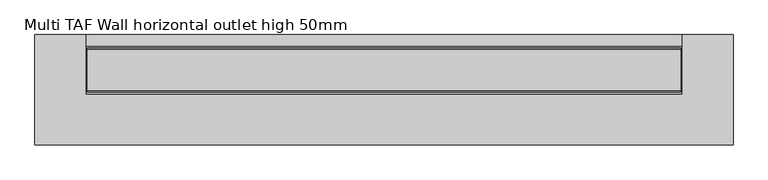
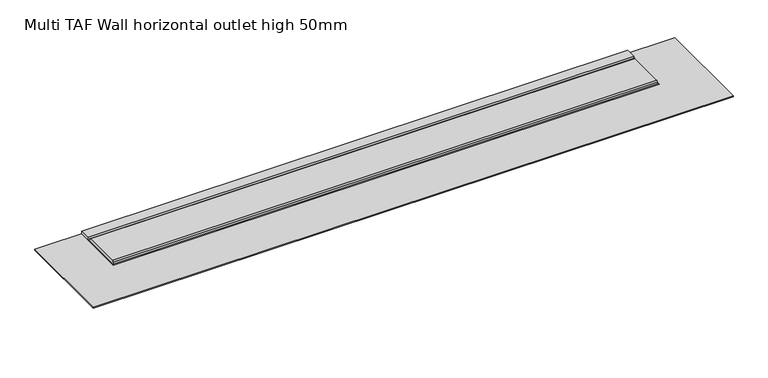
"""IFC4 building model written with IfcOpenShell, lengths in millimetres: sanitary terminal geometry, NLRS_PF_52_UN_Multi TAF Wall uitloop_Easydrain : Multi TAF Wall horizontal outlet high 50mm."""

from ifc_helpers import new_model, si_unit, point, frame, frame_2d, origin, place, context, project, spatial, polyline, circle_curve, trimmed, segment, composite_curve, outline, extrude, faceted_brep, source, transform, mapped, element, save
from ifc_brep_helpers import plane_surface, cylinder_surface, revolved_surface, advanced_brep


def multi_taf_wall_horizontal_outlet_high_50mm_fefc41ae(model_context):
    return source(origin(), model_context, "Body", "SolidModel", [
        advanced_brep(
        [(895.5, 0.0, -67.0), (889.5, 0.0, -67.0), (892.5, 0.0, -67.0), (895.5, 0.0, -78.5), (889.5, 0.0, -78.5), (907.5, 0.0, -86.0), (877.5, 0.0, -86.0), (892.5, 0.0, -86.0)],
        [
            (0, 1, circle_curve(frame((892.5, 0.0, -67.0), z_axis=(0.0, 0.0, 1.0), x_axis=(-1.0, 0.0, 0.0)), 3.0)),
            (1, 2),
            (2, 0),
            (1, 0, circle_curve(frame((892.5, 0.0, -67.0), z_axis=(0.0, 0.0, 1.0), x_axis=(-1.0, 0.0, 0.0)), 3.0)),
            (3, 4, circle_curve(frame((892.5, 0.0, -78.5), z_axis=(0.0, 0.0, 1.0), x_axis=(-1.0, 0.0, 0.0)), 3.0)),
            (4, 1),
            (0, 3),
            (4, 3, circle_curve(frame((892.5, 0.0, -78.5), z_axis=(0.0, 0.0, 1.0), x_axis=(-1.0, 0.0, 0.0)), 3.0)),
            (5, 6, circle_curve(frame((892.5, 0.0, -86.0), z_axis=(0.0, 0.0, 1.0), x_axis=(-1.0, 0.0, 0.0)), 15.0)),
            (6, 4),
            (3, 5),
            (6, 5, circle_curve(frame((892.5, 0.0, -86.0), z_axis=(0.0, 0.0, 1.0), x_axis=(-1.0, 0.0, 0.0)), 15.0)),
            (7, 6),
            (5, 7),
        ],
        [
            plane_surface(frame((892.5, 0.0, -67.0), z_axis=(0.0, 0.0, 1.0), x_axis=(-1.0, 0.0, 0.0))),
            cylinder_surface(frame((892.5, 0.0, -94.1782032), z_axis=(0.0, 0.0, -1.0), x_axis=(-1.0, 0.0, 0.0)), 3.0),
            revolved_surface(polyline([(889.5, 0.0, -78.5), (877.5, 0.0, -86.0)]), (892.5, 0.0, -94.1782032), (0.0, 0.0, -1.0)),
            plane_surface(frame((892.5, 0.0, -86.0), z_axis=(0.0, 0.0, -1.0), x_axis=(-1.0, 0.0, 0.0))),
        ],
        [
            (0, [[1, 2, 3]]),
            (0, [[4, -3, -2]]),
            (1, [[5, 6, -1, 7]]),
            (1, [[8, -7, -4, -6]]),
            (2, [[9, 10, -5, 11]]),
            (2, [[12, -11, -8, -10]]),
            (3, [[13, -9, 14]]),
            (3, [[-14, -12, -13]]),
        ],
    ),
        faceted_brep([(882.5, 10.0, -67.0), (902.5, 10.0, -67.0), (902.5, -10.0, -67.0), (882.5, -10.0, -67.0), (877.5, 15.0, -27.0), (877.5, -15.0, -27.0), (907.5, -15.0, -27.0), (907.5, 15.0, -27.0)], [[[0, 1, 2, 3]], [[4, 5, 6, 7]], [[5, 4, 0, 3]], [[6, 5, 3, 2]], [[7, 6, 2, 1]], [[4, 7, 1, 0]]]),
        advanced_brep(
        [(-189.5, 0.0, -67.0), (-195.5, 0.0, -67.0), (-192.5, 0.0, -67.0), (-189.5, 0.0, -78.5), (-195.5, 0.0, -78.5), (-177.5, 0.0, -86.0), (-207.5, 0.0, -86.0), (-192.5, 0.0, -86.0)],
        [
            (0, 1, circle_curve(frame((-192.5, 0.0, -67.0), z_axis=(0.0, 0.0, 1.0), x_axis=(-1.0, 0.0, 0.0)), 3.0)),
            (1, 2),
            (2, 0),
            (1, 0, circle_curve(frame((-192.5, 0.0, -67.0), z_axis=(0.0, 0.0, 1.0), x_axis=(-1.0, 0.0, 0.0)), 3.0)),
            (3, 4, circle_curve(frame((-192.5, 0.0, -78.5), z_axis=(0.0, 0.0, 1.0), x_axis=(-1.0, 0.0, 0.0)), 3.0)),
            (4, 1),
            (0, 3),
            (4, 3, circle_curve(frame((-192.5, 0.0, -78.5), z_axis=(0.0, 0.0, 1.0), x_axis=(-1.0, 0.0, 0.0)), 3.0)),
            (5, 6, circle_curve(frame((-192.5, 0.0, -86.0), z_axis=(0.0, 0.0, 1.0), x_axis=(-1.0, 0.0, 0.0)), 15.0)),
            (6, 4),
            (3, 5),
            (6, 5, circle_curve(frame((-192.5, 0.0, -86.0), z_axis=(0.0, 0.0, 1.0), x_axis=(-1.0, 0.0, 0.0)), 15.0)),
            (7, 6),
            (5, 7),
        ],
        [
            plane_surface(frame((-192.5, 0.0, -67.0), z_axis=(0.0, 0.0, 1.0), x_axis=(-1.0, 0.0, 0.0))),
            cylinder_surface(frame((-192.5, 0.0, -94.1782032), z_axis=(0.0, 0.0, -1.0), x_axis=(-1.0, 0.0, 0.0)), 3.0),
            revolved_surface(polyline([(-195.5, 0.0, -78.5), (-207.5, 0.0, -86.0)]), (-192.5, 0.0, -94.1782032), (0.0, 0.0, -1.0)),
            plane_surface(frame((-192.5, 0.0, -86.0), z_axis=(0.0, 0.0, -1.0), x_axis=(-1.0, 0.0, 0.0))),
        ],
        [
            (0, [[1, 2, 3]]),
            (0, [[4, -3, -2]]),
            (1, [[5, 6, -1, 7]]),
            (1, [[8, -7, -4, -6]]),
            (2, [[9, 10, -5, 11]]),
            (2, [[12, -11, -8, -10]]),
            (3, [[13, -9, 14]]),
            (3, [[-14, -12, -13]]),
        ],
    ),
        faceted_brep([(-202.5, 10.0, -67.0), (-182.5, 10.0, -67.0), (-182.5, -10.0, -67.0), (-202.5, -10.0, -67.0), (-207.5, 15.0, -27.0), (-207.5, -15.0, -27.0), (-177.5, -15.0, -27.0), (-177.5, 15.0, -27.0)], [[[0, 1, 2, 3]], [[4, 5, 6, 7]], [[5, 4, 0, 3]], [[6, 5, 3, 2]], [[7, 6, 2, 1]], [[4, 7, 1, 0]]]),
        extrude(outline(composite_curve([segment(polyline([(-40.0, 0.0), (40.0, 0.0)]), True, "CONTINUOUS"), segment(trimmed(circle_curve(frame_2d((40.0, -3.0)), 3.0), [point((40.0, 0.0))], [point((43.0, -3.0))], False, "CARTESIAN"), True, "CONTINUOUS"), segment(polyline([(43.0, -3.0), (43.0, -7.0), (-43.0, -7.0), (-43.0, -3.0)]), True, "CONTINUOUS"), segment(trimmed(circle_curve(frame_2d((-40.0, -3.0)), 3.0), [point((-43.0, -3.0))], [point((-40.0, 0.0))], False, "CARTESIAN"), True, "CONTINUOUS")], self_intersect=False)), frame((-230.5, 0.0, 0.0), z_axis=(1.0, 0.0, 0.0), x_axis=(0.0, 1.0, 0.0)), (0.0, 0.0, 1.0), 1161.0),
        extrude(outline(polyline([(932.5, 69.0), (932.5, 47.0), (-232.5, 47.0), (-232.5, 69.0), (932.5, 69.0)])), frame((0.0, 0.0, -7.0), z_axis=(0.0, 0.0, 1.0), x_axis=(1.0, 0.0, 0.0)), (0.0, 0.0, 1.0), 7.0),
        extrude(outline(polyline([(1032.5, 69.0), (1032.5, -147.0), (-332.5, -147.0), (-332.5, 69.0), (1032.5, 69.0)]), holes=[polyline([(932.5, 47.0), (-232.5, 47.0), (-232.5, -47.0), (932.5, -47.0), (932.5, 47.0)])]), frame((0.0, 0.0, -8.0), z_axis=(0.0, 0.0, 1.0), x_axis=(1.0, 0.0, 0.0)), (0.0, 0.0, 1.0), 2.0),
        faceted_brep([(932.5, 47.0, -27.0), (-232.5, 47.0, -27.0), (-232.5, 47.0, -9.0), (932.5, 47.0, -9.0), (-232.5, -47.0, -27.0), (932.5, -47.0, -27.0), (932.5, -47.0, -9.0), (-232.5, -47.0, -9.0), (950.0, 64.5, -7.0), (-250.0, 64.5, -7.0), (-250.0, -81.5, -7.0), (950.0, -81.5, -7.0), (950.0, 64.5, -9.0), (950.0, -81.5, -9.0), (-250.0, -81.5, -9.0), (-250.0, 64.5, -9.0)], [[[0, 1, 2, 3]], [[4, 5, 6, 7]], [[1, 0, 5, 4]], [[5, 0, 3, 6]], [[8, 9, 10, 11]], [[1, 4, 7, 2]], [[12, 13, 14, 15], [3, 2, 7, 6]], [[9, 8, 12, 15]], [[10, 9, 15, 14]], [[11, 10, 14, 13]], [[8, 11, 13, 12]]]),
    ])


if __name__ == "__main__":
    model = new_model("IFC4")
    model_context = context("Model", 3, world=origin())
    ifc_project = project(units=[si_unit("LENGTHUNIT", "METRE", prefix="MILLI")], contexts=[model_context])
    site = spatial("IfcSite", under=ifc_project)
    building = spatial("IfcBuilding", under=site)
    placement = place(None, origin())
    multi_taf_wall_horizontal_outlet_high_50mm_shape = multi_taf_wall_horizontal_outlet_high_50mm_fefc41ae(model_context)
    element("IfcSanitaryTerminal", 1, ObjectType="NLRS_PF_52_UN_Multi TAF Wall uitloop_Easydrain : Multi TAF Wall horizontal outlet high 50mm", at=placement, inside=building, context=model_context, shape_type="MappedRepresentation", body=[
        mapped(multi_taf_wall_horizontal_outlet_high_50mm_shape, transform((0.0, 0.0, 0.0), x_axis=(1.0, 0.0, 0.0), y_axis=(0.0, 1.0, 0.0), z_axis=(0.0, 0.0, 1.0))),
    ])
    save(model, "model.ifc")
